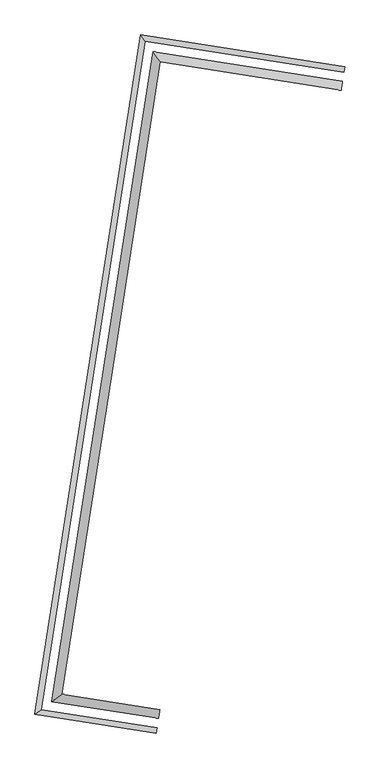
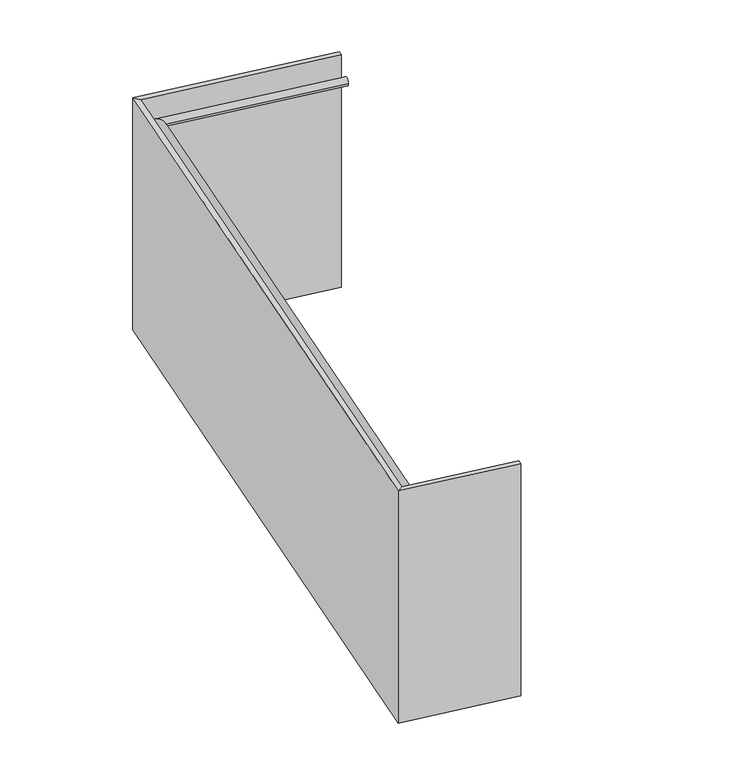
"""IFC4 building model written with IfcOpenShell, lengths in millimetres: railing geometry, Panel de vidrio - balcón."""

from ifc_helpers import new_model, si_unit, frame, origin, place, context, project, spatial, circle_curve, ellipse_curve, faceted_brep, source, transform, mapped, element, save
from ifc_brep_helpers import plane_surface, cylinder_surface, advanced_brep


def railing_8f4d69ca(model_context):
    return source(origin(), model_context, "Body", "SolidModel", [
        faceted_brep([(-51971.2476536, -76454.7667005, 10545.385397), (-51975.0979006, -76479.4684332, 10545.385397), (-51975.0979006, -76479.4684332, 9345.385397), (-51971.2476536, -76454.7667005, 9345.385397), (-52896.9761124, -76310.4738588, 10545.385397), (-52876.1246267, -76339.0258385, 10545.385397), (-52876.1246267, -76339.0258385, 9345.385397), (-52896.9761124, -76310.4738588, 9345.385397), (-53376.5340454, -79387.1367016, 10545.385397), (-53347.9820657, -79366.2852159, 10545.385397), (-53347.9820657, -79366.2852159, 9345.385397), (-53376.5340454, -79387.1367016, 9345.385397), (-52826.27192, -79472.9057897, 10545.385397), (-52826.27192, -79472.9057897, 9345.385397), (-52822.421673, -79448.204057, 9345.385397), (-52822.421673, -79448.204057, 10545.385397)], [[[0, 1, 2, 3]], [[1, 0, 4, 5]], [[2, 1, 5, 6]], [[3, 2, 6, 7]], [[0, 3, 7, 4]], [[5, 4, 8, 9]], [[6, 5, 9, 10]], [[7, 6, 10, 11]], [[4, 7, 11, 8]], [[12, 13, 14, 15]], [[9, 8, 12, 15]], [[10, 9, 15, 14]], [[11, 10, 14, 13]], [[8, 11, 13, 12]]]),
        advanced_brep(
        [(-51987.712296, -76560.3976374, 10450.0), (-51981.5519009, -76520.874865, 10450.0), (-52807.809818, -76432.5694381, 10450.0), (-52841.1721951, -76386.8862706, 10450.0), (-53254.438466, -79297.9704071, 10450.0), (-53300.1216335, -79331.3327842, 10450.0), (-52809.8072776, -79367.2748528, 10450.0), (-52815.9676727, -79406.7976251, 10450.0)],
        [
            (0, 1, circle_curve(frame((-51984.6320984, -76540.6362512, 10450.0), z_axis=(0.9880693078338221, -0.1540098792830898, 0.0), x_axis=(0.1540098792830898, 0.9880693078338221, 0.0)), 20.0)),
            (1, 0, circle_curve(frame((-51984.6320984, -76540.6362512, 10450.0), z_axis=(0.9880693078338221, -0.1540098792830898, 0.0), x_axis=(0.1540098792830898, 0.9880693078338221, 0.0)), 20.0)),
            (0, 2),
            (2, 3, ellipse_curve(frame((-52824.4910066, -76409.7278544, 10450.0), z_axis=(0.8075719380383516, 0.5897690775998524, 0.0), x_axis=(0.5897690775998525, -0.8075719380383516, 0.0)), 28.2842712, 20.0)),
            (3, 1),
            (3, 2, ellipse_curve(frame((-52824.4910066, -76409.7278544, 10450.0), z_axis=(0.8075719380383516, 0.5897690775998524, 0.0), x_axis=(0.5897690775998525, -0.8075719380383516, 0.0)), 28.2842712, 20.0)),
            (2, 4),
            (4, 5, ellipse_curve(frame((-53277.2800497, -79314.6515957, 10450.0), z_axis=(-0.5897690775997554, 0.8075719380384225, 0.0), x_axis=(0.8075719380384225, 0.5897690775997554, 0.0)), 28.2842713, 20.0)),
            (5, 3),
            (5, 4, ellipse_curve(frame((-53277.2800497, -79314.6515957, 10450.0), z_axis=(-0.5897690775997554, 0.8075719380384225, 0.0), x_axis=(0.8075719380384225, 0.5897690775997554, 0.0)), 28.2842713, 20.0)),
            (6, 7, circle_curve(frame((-52812.8874751, -79387.0362389, 10450.0), z_axis=(0.9880693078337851, -0.15400987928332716, 0.0), x_axis=(-0.15400987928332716, -0.9880693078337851, 0.0)), 20.0)),
            (7, 6, circle_curve(frame((-52812.8874751, -79387.0362389, 10450.0), z_axis=(0.9880693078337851, -0.15400987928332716, 0.0), x_axis=(-0.15400987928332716, -0.9880693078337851, 0.0)), 20.0)),
            (4, 6),
            (7, 5),
        ],
        [
            plane_surface(frame((-51984.6320984, -76540.6362512, 10450.0), z_axis=(0.9880693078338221, -0.1540098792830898, 0.0), x_axis=(0.1540098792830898, 0.9880693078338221, 0.0))),
            cylinder_surface(frame((-51984.6320984, -76540.6362512, 10450.0), z_axis=(0.9880693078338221, -0.1540098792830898, 0.0), x_axis=(0.1540098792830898, 0.9880693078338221, 0.0)), 20.0),
            cylinder_surface(frame((-52824.4910066, -76409.7278544, 10450.0), z_axis=(0.15400987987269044, 0.9880693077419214, 0.0), x_axis=(-0.9880693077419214, 0.15400987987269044, 0.0)), 20.0),
            plane_surface(frame((-52812.8874751, -79387.0362389, 10450.0), z_axis=(0.988069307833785, -0.15400987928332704, 0.0), x_axis=(0.15400987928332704, 0.988069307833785, 0.0))),
            cylinder_surface(frame((-53277.2800497, -79314.6515957, 10450.0), z_axis=(-0.9880693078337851, 0.15400987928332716, 0.0), x_axis=(-0.15400987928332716, -0.9880693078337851, 0.0)), 20.0),
        ],
        [
            (0, [[1, 2]]),
            (1, [[-1, 3, 4, 5]]),
            (1, [[-2, -5, 6, -3]]),
            (2, [[-4, 7, 8, 9]]),
            (2, [[-6, -9, 10, -7]]),
            (3, [[11, 12]]),
            (4, [[-8, 13, -12, 14]]),
            (4, [[-10, -14, -11, -13]]),
        ],
    ),
    ])


if __name__ == "__main__":
    model = new_model("IFC4")
    model_context = context("Model", 3, world=origin())
    ifc_project = project(units=[si_unit("LENGTHUNIT", "METRE", prefix="MILLI")], contexts=[model_context])
    site = spatial("IfcSite", under=ifc_project)
    building = spatial("IfcBuilding", under=site)
    placement = place(None, origin())
    railing_shape = railing_8f4d69ca(model_context)
    element("IfcRailing", 1, ObjectType="Panel de vidrio - balcón", at=placement, inside=building, context=model_context, shape_type="MappedRepresentation", body=[
        mapped(railing_shape, transform((0.0, 0.0, 0.0), x_axis=(1.0, 0.0, 0.0), y_axis=(0.0, 1.0, 0.0), z_axis=(0.0, 0.0, 1.0))),
    ])
    save(model, "model.ifc")
